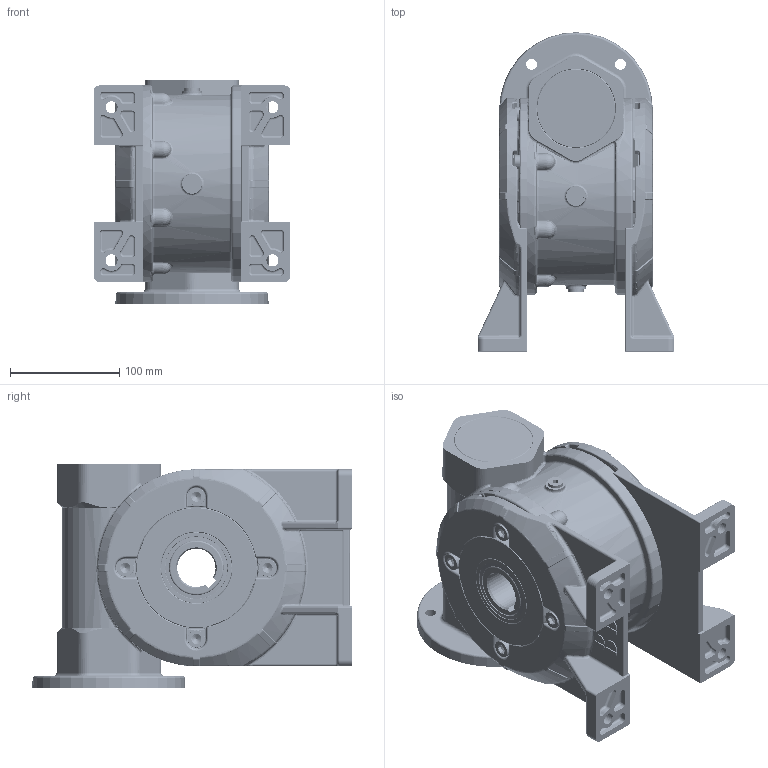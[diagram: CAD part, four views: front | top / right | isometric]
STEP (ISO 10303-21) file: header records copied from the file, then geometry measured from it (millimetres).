
FILE_DESCRIPTION (( 'STEP AP203' ), '1' );
FILE_NAME ('Sestava MRT80A-A.STEP', '2005-08-15T10:41:37', ( '' ), ( '' ), 'SwSTEP 2.0', 'SolidWorks 2004146', '' );
FILE_SCHEMA (( 'CONFIG_CONTROL_DESIGN' ));
Products named in the file (1): Sestava MRT80A-A
Bounding box: 180 x 292 x 205 mm (x, y, z)
Volume: 2869843.8 mm3; surface area: 770785.3 mm2
Topology: 40 solids, 40 shells, 5187 faces, 12684 edges, 7286 vertices
Faces by surface type: cylinder 1330, torus 1133, plane 1000, bspline 873, cone 615, sphere 236
Entity records: 471246 total; most frequent: CARTESIAN_POINT 356308, ORIENTED_EDGE 24456, DIRECTION 24054, EDGE_CURVE 12228, AXIS2_PLACEMENT_3D 10552, VERTEX_POINT 7170, CIRCLE 6237, EDGE_LOOP 5454
